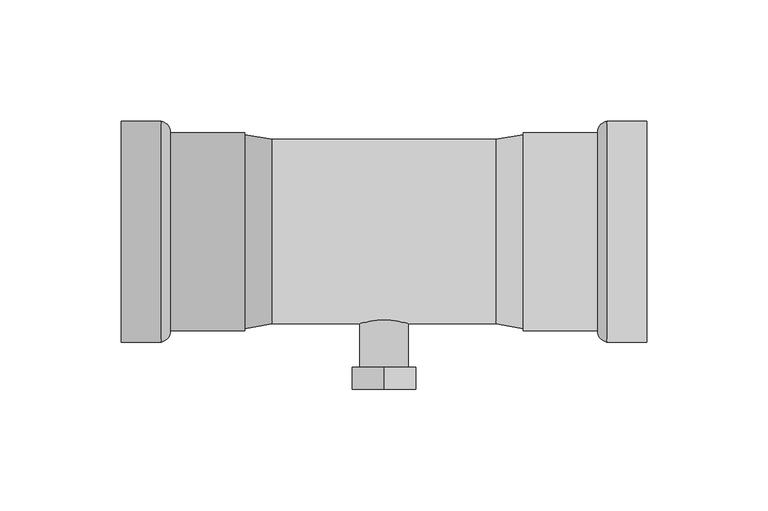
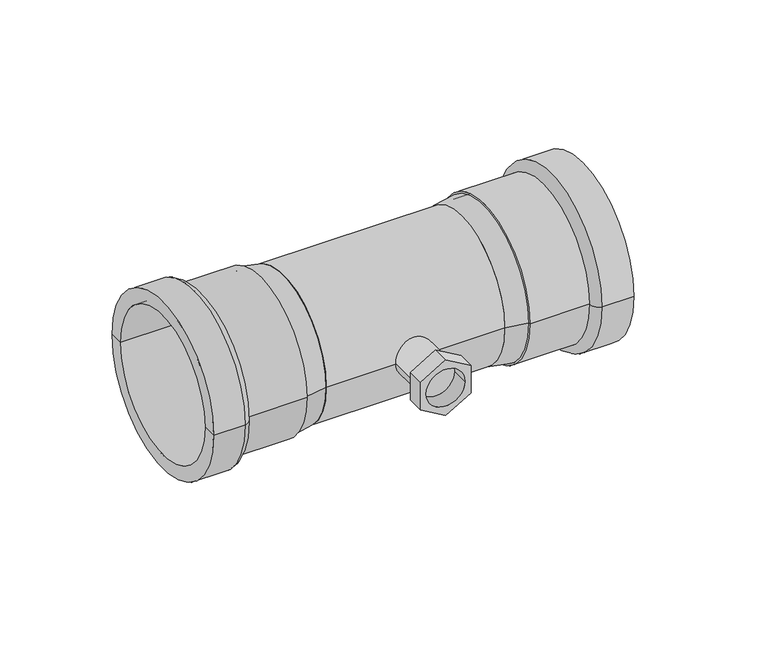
"""IFC4 building model written with IfcOpenShell, lengths in millimetres: pipe fitting geometry, VALTEC_VTi.932.I_Тройник с переходом на внутреннюю резьбу нержавеющая сталь : VTi.932.I."""

from ifc_helpers import new_model, si_unit, point, frame, origin, origin_2d, place, context, project, spatial, polyline, circle_curve, ellipse_curve, trimmed, segment, composite_curve, outline, extrude, source, transform, mapped, element, save
from ifc_brep_helpers import plane_surface, cylinder_surface, revolved_surface, advanced_brep


def pipe_fitting_e91dd347(model_context):
    return source(origin(), model_context, "Body", "SolidModel", [
        advanced_brep(
        [(108.31, -38.05, 0.0), (108.31, -45.5, 0.0), (108.31, 45.5, 0.0), (108.31, 38.05, 0.0), (57.5, -38.05, 0.0), (57.5, 38.05, 0.0), (57.5, -40.75, 0.0), (57.5, 40.75, 0.0), (88.06, -40.75, 0.0), (88.06, 40.75, 0.0), (91.91, -45.5, 0.0), (91.91, 45.5, 0.0)],
        [
            (0, 1),
            (1, 2, circle_curve(frame((108.31, 0.0, 0.0), z_axis=(1.0, 0.0, 0.0), x_axis=(0.0, 1.0, 0.0)), 45.5)),
            (2, 3),
            (3, 0, circle_curve(frame((108.31, 0.0, 0.0), z_axis=(-1.0, 0.0, 0.0), x_axis=(0.0, 1.0, 0.0)), 38.05)),
            (2, 1, circle_curve(frame((108.31, 0.0, 0.0), z_axis=(1.0, 0.0, 0.0), x_axis=(0.0, 1.0, 0.0)), 45.5)),
            (0, 3, circle_curve(frame((108.31, 0.0, 0.0), z_axis=(-1.0, 0.0, 0.0), x_axis=(0.0, 1.0, 0.0)), 38.05)),
            (4, 0),
            (3, 5),
            (5, 4, circle_curve(frame((57.5, 0.0, 0.0), z_axis=(-1.0, 0.0, 0.0), x_axis=(0.0, 1.0, 0.0)), 38.05)),
            (4, 5, circle_curve(frame((57.5, 0.0, 0.0), z_axis=(-1.0, 0.0, 0.0), x_axis=(0.0, 1.0, 0.0)), 38.05)),
            (6, 4),
            (5, 7),
            (7, 6, circle_curve(frame((57.5, 0.0, 0.0), z_axis=(-1.0, 0.0, 0.0), x_axis=(0.0, 1.0, 0.0)), 40.75)),
            (6, 7, circle_curve(frame((57.5, 0.0, 0.0), z_axis=(-1.0, 0.0, 0.0), x_axis=(0.0, 1.0, 0.0)), 40.75)),
            (8, 6),
            (7, 9),
            (9, 8, circle_curve(frame((88.06, 0.0, 0.0), z_axis=(-1.0, 0.0, 0.0), x_axis=(0.0, 1.0, 0.0)), 40.75)),
            (8, 9, circle_curve(frame((88.06, 0.0, 0.0), z_axis=(-1.0, 0.0, 0.0), x_axis=(0.0, 1.0, 0.0)), 40.75)),
            (10, 8, circle_curve(frame((92.7765873, -40.862345, 0.0), z_axis=(0.0, 0.0, -1.0), x_axis=(-1.0, 0.0, 0.0)), 4.7179251)),
            (9, 11, circle_curve(frame((92.7765873, 40.862345, 0.0), z_axis=(0.0, 0.0, -1.0), x_axis=(-1.0, 0.0, 0.0)), 4.7179251)),
            (11, 10, circle_curve(frame((91.91, 0.0, 0.0), z_axis=(-1.0, 0.0, 0.0), x_axis=(0.0, 1.0, 0.0)), 45.5)),
            (10, 11, circle_curve(frame((91.91, 0.0, 0.0), z_axis=(-1.0, 0.0, 0.0), x_axis=(0.0, 1.0, 0.0)), 45.5)),
            (1, 10),
            (11, 2),
        ],
        [
            plane_surface(frame((108.31, 0.0, 0.0), z_axis=(1.0, 0.0, 0.0), x_axis=(0.0, 1.0, 0.0))),
            revolved_surface(polyline([(108.31, 38.05, 0.0), (57.5, 38.05, 0.0)]), (78.4606392, 0.0, 0.0), (1.0, 0.0, 0.0)),
            plane_surface(frame((57.5, 0.0, 0.0), z_axis=(-1.0, 0.0, 0.0), x_axis=(0.0, 1.0, 0.0))),
            cylinder_surface(frame((78.4606392, 0.0, 0.0), z_axis=(1.0, 0.0, 0.0), x_axis=(0.0, 1.0, 0.0)), 40.75),
            revolved_surface(trimmed(ellipse_curve(frame((92.7765873, 40.862345, 0.0), z_axis=(0.0, 0.0, -1.0), x_axis=(-1.0, 0.0, 0.0)), 4.7179251, 4.7179251), [point((88.06, 40.75, 0.0))], [point((91.91, 45.5, 0.0))], True, "CARTESIAN"), (78.4606392, 0.0, 0.0), (1.0, 0.0, 0.0)),
            cylinder_surface(frame((78.4606392, 0.0, 0.0), z_axis=(1.0, 0.0, 0.0), x_axis=(0.0, 1.0, 0.0)), 45.5),
        ],
        [
            (0, [[1, 2, 3, 4]]),
            (0, [[-3, 5, -1, 6]]),
            (1, [[7, -4, 8, 9]]),
            (1, [[-8, -6, -7, 10]]),
            (2, [[11, -9, 12, 13]]),
            (2, [[-12, -10, -11, 14]]),
            (3, [[15, -13, 16, 17]]),
            (3, [[-16, -14, -15, 18]]),
            (4, [[19, -17, 20, 21]]),
            (4, [[-20, -18, -19, 22]]),
            (5, [[23, -21, 24, -2]]),
            (5, [[-24, -22, -23, -5]]),
        ],
    ),
        advanced_brep(
        [(-108.31, -38.05, 0.0), (-108.31, 38.05, 0.0), (-108.31, 45.5, 0.0), (-108.31, -45.5, 0.0), (-57.5, -38.05, 0.0), (-57.5, 38.05, 0.0), (-57.5, -40.75, 0.0), (-57.5, 40.75, 0.0), (-88.06, -40.75, 0.0), (-88.06, 40.75, 0.0), (-91.91, -45.5, 0.0), (-91.91, 45.5, 0.0)],
        [
            (0, 1, circle_curve(frame((-108.31, 0.0, 0.0), z_axis=(1.0, 0.0, 0.0), x_axis=(0.0, 1.0, 0.0)), 38.05)),
            (1, 2),
            (2, 3, circle_curve(frame((-108.31, 0.0, 0.0), z_axis=(-1.0, 0.0, 0.0), x_axis=(0.0, 1.0, 0.0)), 45.5)),
            (3, 0),
            (1, 0, circle_curve(frame((-108.31, 0.0, 0.0), z_axis=(1.0, 0.0, 0.0), x_axis=(0.0, 1.0, 0.0)), 38.05)),
            (3, 2, circle_curve(frame((-108.31, 0.0, 0.0), z_axis=(-1.0, 0.0, 0.0), x_axis=(0.0, 1.0, 0.0)), 45.5)),
            (4, 5, circle_curve(frame((-57.5, 0.0, 0.0), z_axis=(1.0, 0.0, 0.0), x_axis=(0.0, 1.0, 0.0)), 38.05)),
            (5, 1),
            (0, 4),
            (5, 4, circle_curve(frame((-57.5, 0.0, 0.0), z_axis=(1.0, 0.0, 0.0), x_axis=(0.0, 1.0, 0.0)), 38.05)),
            (6, 7, circle_curve(frame((-57.5, 0.0, 0.0), z_axis=(1.0, 0.0, 0.0), x_axis=(0.0, 1.0, 0.0)), 40.75)),
            (7, 5),
            (4, 6),
            (7, 6, circle_curve(frame((-57.5, 0.0, 0.0), z_axis=(1.0, 0.0, 0.0), x_axis=(0.0, 1.0, 0.0)), 40.75)),
            (8, 9, circle_curve(frame((-88.06, 0.0, 0.0), z_axis=(1.0, 0.0, 0.0), x_axis=(0.0, 1.0, 0.0)), 40.75)),
            (9, 7),
            (6, 8),
            (9, 8, circle_curve(frame((-88.06, 0.0, 0.0), z_axis=(1.0, 0.0, 0.0), x_axis=(0.0, 1.0, 0.0)), 40.75)),
            (10, 11, circle_curve(frame((-91.91, 0.0, 0.0), z_axis=(1.0, 0.0, 0.0), x_axis=(0.0, 1.0, 0.0)), 45.5)),
            (11, 9, circle_curve(frame((-92.7765873, 40.862345, 0.0), z_axis=(0.0, 0.0, -1.0), x_axis=(1.0, 0.0, 0.0)), 4.7179251)),
            (8, 10, circle_curve(frame((-92.7765873, -40.862345, 0.0), z_axis=(0.0, 0.0, -1.0), x_axis=(1.0, 0.0, 0.0)), 4.7179251)),
            (11, 10, circle_curve(frame((-91.91, 0.0, 0.0), z_axis=(1.0, 0.0, 0.0), x_axis=(0.0, 1.0, 0.0)), 45.5)),
            (2, 11),
            (10, 3),
        ],
        [
            plane_surface(frame((-108.31, 0.0, 0.0), z_axis=(-1.0, 0.0, 0.0), x_axis=(0.0, 1.0, 0.0))),
            revolved_surface(polyline([(-108.31, 38.05, 0.0), (-57.5, 38.05, 0.0)]), (-78.4606392, 0.0, 0.0), (-1.0, 0.0, 0.0)),
            plane_surface(frame((-57.5, 0.0, 0.0), z_axis=(1.0, 0.0, 0.0), x_axis=(0.0, 1.0, 0.0))),
            cylinder_surface(frame((-78.4606392, 0.0, 0.0), z_axis=(-1.0, 0.0, 0.0), x_axis=(0.0, 1.0, 0.0)), 40.75),
            revolved_surface(trimmed(ellipse_curve(frame((-92.7765873, 40.862345, 0.0), z_axis=(0.0, 0.0, 1.0), x_axis=(1.0, 0.0, 0.0)), 4.7179251, 4.7179251), [point((-88.06, 40.75, 0.0))], [point((-91.91, 45.5, 0.0))], True, "CARTESIAN"), (-78.4606392, 0.0, 0.0), (-1.0, 0.0, 0.0)),
            cylinder_surface(frame((-78.4606392, 0.0, 0.0), z_axis=(-1.0, 0.0, 0.0), x_axis=(0.0, 1.0, 0.0)), 45.5),
        ],
        [
            (0, [[1, 2, 3, 4]]),
            (0, [[5, -4, 6, -2]]),
            (1, [[7, 8, -1, 9]]),
            (1, [[10, -9, -5, -8]]),
            (2, [[11, 12, -7, 13]]),
            (2, [[14, -13, -10, -12]]),
            (3, [[15, 16, -11, 17]]),
            (3, [[18, -17, -14, -16]]),
            (4, [[19, 20, -15, 21]]),
            (4, [[22, -21, -18, -20]]),
            (5, [[-3, 23, -19, 24]]),
            (5, [[-6, -24, -22, -23]]),
        ],
    ),
        extrude(outline(polyline([(15.011107, 0.0), (7.5055535, -13.0), (-7.5055535, -13.0), (-15.011107, 0.0), (-7.5055535, 13.0), (7.5055535, 13.0), (15.011107, 0.0)]), holes=[composite_curve([segment(trimmed(circle_curve(origin_2d(), 10.0), [point((0.0, -10.0))], [point((0.0, 10.0))], True, "CARTESIAN"), True, "CONTINUOUS"), segment(trimmed(circle_curve(origin_2d(), 10.0), [point((0.0, 10.0))], [point((0.0, -10.0))], True, "CARTESIAN"), True, "CONTINUOUS")], self_intersect=False)]), frame((0.0, -65.0, 0.0), z_axis=(0.0, 1.0, 0.0), x_axis=(0.0, 0.0, 1.0)), (0.0, 0.0, 1.0), 9.0),
        extrude(outline(composite_curve([segment(trimmed(circle_curve(origin_2d(), 10.0), [point((0.0, -10.0))], [point((0.0, 10.0))], False, "CARTESIAN"), True, "CONTINUOUS"), segment(trimmed(circle_curve(origin_2d(), 10.0), [point((0.0, 10.0))], [point((0.0, -10.0))], False, "CARTESIAN"), True, "CONTINUOUS")], self_intersect=False)), frame((0.0, -56.0, 0.0), z_axis=(0.0, 1.0, 0.0), x_axis=(0.0, 0.0, 1.0)), (0.0, 0.0, 1.0), 56.0),
        extrude(outline(composite_curve([segment(trimmed(circle_curve(origin_2d(), 38.05), [point((-38.05, 0.0))], [point((38.05, 0.0))], False, "CARTESIAN"), True, "CONTINUOUS"), segment(trimmed(circle_curve(origin_2d(), 38.05), [point((38.05, 0.0))], [point((-38.05, 0.0))], False, "CARTESIAN"), True, "CONTINUOUS")], self_intersect=False)), frame((-46.0, 0.0, 0.0), z_axis=(1.0, 0.0, 0.0), x_axis=(0.0, 1.0, 0.0)), (0.0, 0.0, 1.0), 92.0),
        advanced_brep(
        [(57.5, -39.9525, 0.0), (57.5, 39.9525, 0.0), (46.0, -38.05, 0.0), (46.0, 38.05, 0.0)],
        [
            (0, 1, circle_curve(frame((57.5, 0.0, 0.0), z_axis=(1.0, 0.0, 0.0), x_axis=(0.0, -1.0, 0.0)), 39.9525)),
            (1, 0, circle_curve(frame((57.5, 0.0, 0.0), z_axis=(1.0, 0.0, 0.0), x_axis=(0.0, 1.0, 0.0)), 39.9525)),
            (2, 3, circle_curve(frame((46.0, 0.0, 0.0), z_axis=(-1.0, 0.0, 0.0), x_axis=(0.0, 1.0, 0.0)), 38.05)),
            (3, 2, circle_curve(frame((46.0, 0.0, 0.0), z_axis=(-1.0, 0.0, 0.0), x_axis=(0.0, -1.0, 0.0)), 38.05)),
            (3, 1),
            (0, 2),
        ],
        [
            plane_surface(frame((57.5, 0.0, 0.0), z_axis=(1.0, 0.0, 0.0), x_axis=(0.0, 0.0, 1.0))),
            plane_surface(frame((46.0, 0.0, 0.0), z_axis=(-1.0, 0.0, 0.0), x_axis=(0.0, 0.0, 1.0))),
            revolved_surface(polyline([(46.0, 38.05, 0.0), (57.5, 39.9525, 0.0)]), (-184.0, 0.0, 0.0), (1.0, 0.0, 0.0)),
            revolved_surface(polyline([(46.0, -38.05, 0.0), (57.5, -39.9525, 0.0)]), (-184.0, 0.0, 0.0), (1.0, 0.0, 0.0)),
        ],
        [
            (0, [[1, 2]]),
            (1, [[3, 4]]),
            (2, [[-4, 5, -1, 6]]),
            (3, [[-3, -6, -2, -5]]),
        ],
    ),
        advanced_brep(
        [(-57.5, -39.9525, 0.0), (-57.5, 39.9525, 0.0), (-46.0, -38.05, 0.0), (-46.0, 38.05, 0.0)],
        [
            (0, 1, circle_curve(frame((-57.5, 0.0, 0.0), z_axis=(-1.0, 0.0, 0.0), x_axis=(0.0, -1.0, 0.0)), 39.9525)),
            (1, 0, circle_curve(frame((-57.5, 0.0, 0.0), z_axis=(-1.0, 0.0, 0.0), x_axis=(0.0, 1.0, 0.0)), 39.9525)),
            (2, 3, circle_curve(frame((-46.0, 0.0, 0.0), z_axis=(1.0, 0.0, 0.0), x_axis=(0.0, 1.0, 0.0)), 38.05)),
            (3, 2, circle_curve(frame((-46.0, 0.0, 0.0), z_axis=(1.0, 0.0, 0.0), x_axis=(0.0, -1.0, 0.0)), 38.05)),
            (2, 0),
            (1, 3),
        ],
        [
            plane_surface(frame((-57.5, 0.0, 0.0), z_axis=(-1.0, 0.0, 0.0), x_axis=(0.0, 0.0, -1.0))),
            plane_surface(frame((-46.0, 0.0, 0.0), z_axis=(1.0, 0.0, 0.0), x_axis=(0.0, 0.0, -1.0))),
            revolved_surface(polyline([(-46.0, -38.05, 0.0), (-57.5, -39.9525, 0.0)]), (184.0, 0.0, 0.0), (-1.0, 0.0, 0.0)),
            revolved_surface(polyline([(-46.0, 38.05, 0.0), (-57.5, 39.9525, 0.0)]), (184.0, 0.0, 0.0), (-1.0, 0.0, 0.0)),
        ],
        [
            (0, [[1, 2]]),
            (1, [[3, 4]]),
            (2, [[-3, 5, -2, 6]]),
            (3, [[-4, -6, -1, -5]]),
        ],
    ),
    ])


if __name__ == "__main__":
    model = new_model("IFC4")
    model_context = context("Model", 3, world=origin())
    ifc_project = project(units=[si_unit("LENGTHUNIT", "METRE", prefix="MILLI")], contexts=[model_context])
    site = spatial("IfcSite", under=ifc_project)
    building = spatial("IfcBuilding", under=site)
    placement = place(None, origin())
    pipe_fitting_shape = pipe_fitting_e91dd347(model_context)
    element("IfcPipeFitting", 1, ObjectType="VALTEC_VTi.932.I_Тройник с переходом на внутреннюю резьбу нержавеющая сталь : VTi.932.I", at=placement, inside=building, context=model_context, shape_type="MappedRepresentation", body=[
        mapped(pipe_fitting_shape, transform((0.0, 0.0, 0.0), x_axis=(1.0, 0.0, 0.0), y_axis=(0.0, 1.0, 0.0), z_axis=(0.0, 0.0, 1.0))),
    ])
    save(model, "model.ifc")
